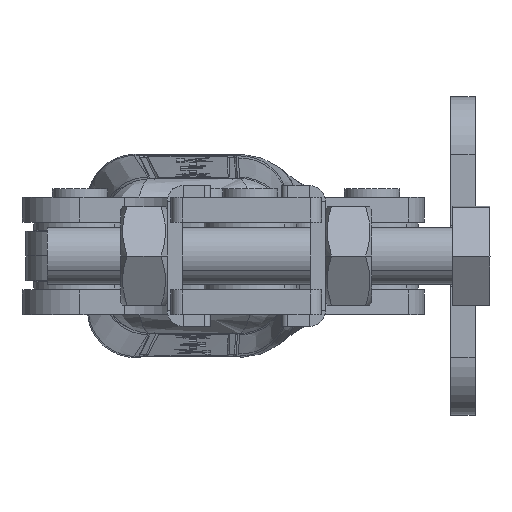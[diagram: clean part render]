
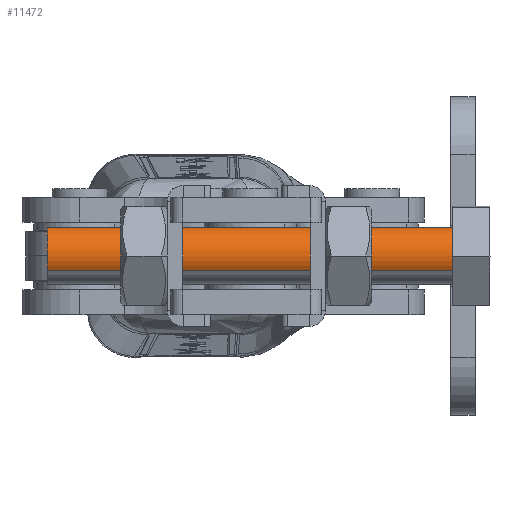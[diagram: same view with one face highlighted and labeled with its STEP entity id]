
A CAD part, left-side view. The second image highlights one B-rep face of the part: STEP entity #11472.
In plain terms, the highlighted cylindrical face has radius 5 mm (diameter 10 mm), a partial arc.
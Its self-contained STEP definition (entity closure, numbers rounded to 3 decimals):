
#882 = DIRECTION ( 'NONE',  ( 0., 0., -1. ) ) ;
#3361 = DIRECTION ( 'NONE',  ( 0., 1., 0. ) ) ;
#4093 = CARTESIAN_POINT ( 'NONE',  ( 0., -70., -5. ) ) ;
#4540 = EDGE_CURVE ( 'NONE', #9783, #12411, #16686, .T. ) ;
#5376 = CYLINDRICAL_SURFACE ( 'NONE', #21161, 5. ) ;
#5815 = EDGE_CURVE ( 'NONE', #17445, #9783, #10095, .T. ) ;
#8386 = DIRECTION ( 'NONE',  ( 0., -1., 0. ) ) ;
#8823 = CARTESIAN_POINT ( 'NONE',  ( 0., -70., -5. ) ) ;
#9352 = VERTEX_POINT ( 'NONE', #4093 ) ;
#9783 = VERTEX_POINT ( 'NONE', #16682 ) ;
#9821 = AXIS2_PLACEMENT_3D ( 'NONE', #19324, #8386, #21146 ) ;
#10095 = LINE ( 'NONE', #21383, #19821 ) ;
#10282 = VECTOR ( 'NONE', #3361, 1000. ) ;
#10472 = DIRECTION ( 'NONE',  ( 0., 1., 0. ) ) ;
#10561 = ORIENTED_EDGE ( 'NONE', *, *, #11190, .F. ) ;
#10851 = LINE ( 'NONE', #8823, #10282 ) ;
#11190 = EDGE_CURVE ( 'NONE', #17445, #9352, #21356, .T. ) ;
#11472 = ADVANCED_FACE ( 'NONE', ( #23366 ), #5376, .T. ) ;
#11792 = DIRECTION ( 'NONE',  ( 0., -1., 0. ) ) ;
#12228 = CARTESIAN_POINT ( 'NONE',  ( 0., -70., 5. ) ) ;
#12411 = VERTEX_POINT ( 'NONE', #14696 ) ;
#14426 = CARTESIAN_POINT ( 'NONE',  ( 0., -70., 0. ) ) ;
#14696 = CARTESIAN_POINT ( 'NONE',  ( 0., 0., -5. ) ) ;
#14839 = EDGE_CURVE ( 'NONE', #9352, #12411, #10851, .T. ) ;
#15498 = ORIENTED_EDGE ( 'NONE', *, *, #4540, .T. ) ;
#16541 = ORIENTED_EDGE ( 'NONE', *, *, #5815, .T. ) ;
#16682 = CARTESIAN_POINT ( 'NONE',  ( 0., 0., 5. ) ) ;
#16686 = CIRCLE ( 'NONE', #9821, 5. ) ;
#17158 = ORIENTED_EDGE ( 'NONE', *, *, #14839, .F. ) ;
#17445 = VERTEX_POINT ( 'NONE', #12228 ) ;
#17970 = AXIS2_PLACEMENT_3D ( 'NONE', #22736, #11792, #882 ) ;
#18075 = EDGE_LOOP ( 'NONE', ( #17158, #10561, #16541, #15498 ) ) ;
#19324 = CARTESIAN_POINT ( 'NONE',  ( 0., 0., 0. ) ) ;
#19821 = VECTOR ( 'NONE', #10472, 1000. ) ;
#19935 = DIRECTION ( 'NONE',  ( 0., 0., 1. ) ) ;
#21146 = DIRECTION ( 'NONE',  ( 0., 0., 1. ) ) ;
#21161 = AXIS2_PLACEMENT_3D ( 'NONE', #14426, #21759, #19935 ) ;
#21356 = CIRCLE ( 'NONE', #17970, 5. ) ;
#21383 = CARTESIAN_POINT ( 'NONE',  ( 0., -70., 5. ) ) ;
#21759 = DIRECTION ( 'NONE',  ( 0., 1., 0. ) ) ;
#22736 = CARTESIAN_POINT ( 'NONE',  ( 0., -70., 0. ) ) ;
#23366 = FACE_OUTER_BOUND ( 'NONE', #18075, .T. ) ;
